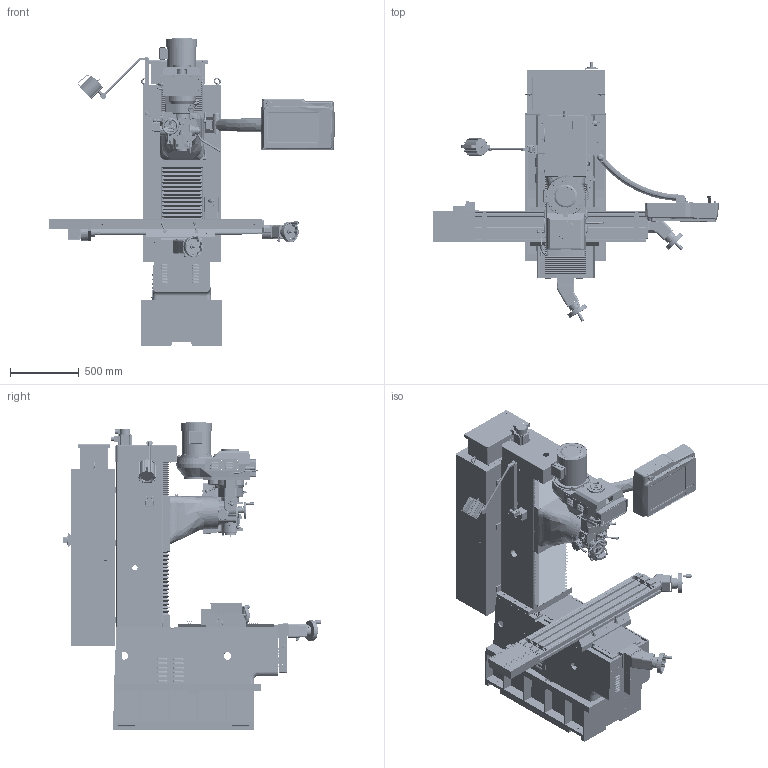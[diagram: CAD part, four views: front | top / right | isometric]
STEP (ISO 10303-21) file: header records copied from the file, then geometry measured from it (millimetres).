
FILE_DESCRIPTION( ( 'Unknown' ), '1' );
FILE_NAME( '//SERVERENG2/Data/DRAWINGS/29602.stp', 'Unknown', ( 'Unknown' ), ( 'Unknown' ), 'PSStep 14.0', 'Unknown', ' ' );
FILE_SCHEMA( ( 'AUTOMOTIVE_DESIGN { 1 0 10303 214 1 1 1 1 }' ) );
Length unit declared in the file: millimetre
Products named in the file (274): Assem1; -oa0
Assembly tree (273 placements, depth 2):
  Assem1
    -oa0
    -oa0
    -oa0
    -oa0
    -oa0
    -oa0
    -oa0
    -oa0
    -oa0
    -oa0
    -oa0
    -oa0
    -oa0
    -oa0
    -oa0
    -oa0
    -oa0
    -oa0
    -oa0
    -oa0
    -oa0
    -oa0
    -oa0
    -oa0
    -oa0
    -oa0
    -oa0
    -oa0
    -oa0
    -oa0
    -oa0
    -oa0
    -oa0
    -oa0
    -oa0
    -oa0
    -oa0
    -oa0
    -oa0
    -oa0
    -oa0
    -oa0
    -oa0
    -oa0
    -oa0
    -oa0
    -oa0
    -oa0
    -oa0
    -oa0
    -oa0
    -oa0
    -oa0
    -oa0
    -oa0
    -oa0
    -oa0
    -oa0
    -oa0
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Bounding box: 2083.18 x 1888.75 x 2240.21 mm (x, y, z)
Surface area: 23871093 mm2 (no closed solid volume)
Topology: 0 solids, 3559 shells, 3560 faces, 23074 edges, 22565 vertices
Faces by surface type: plane 2117, cylinder 873, bspline 217, cone 158, sphere 102, torus 84, revolution 5, extrusion 4
Full cylindrical faces by diameter (mm): 4.826 x1, 5 x1, 6.35 x1, 6.5 x1, 7.112 x2, 7.925 x1, 7.938 x1, 8 x3, 8.3 x1, 8.738 x2, 9.095 x7, 9.5 x6, 9.525 x5, 9.652 x2, 10 x10, 10.16 x2, 10.678 x1, 11 x4, 11.113 x3, 11.325 x3, 11.326 x8, 12 x1, 12.499 x1, 12.5 x1, 12.7 x12, 12.878 x1, 13 x2, 13.3 x2, 13.835 x4, 13.97 x1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
Entity records: 272282 total; most frequent: CARTESIAN_POINT 94142, DIRECTION 35309, ORIENTED_EDGE 22483, EDGE_CURVE 22483, VERTEX_POINT 22483, VECTOR 12581, LINE 12577, AXIS2_PLACEMENT_3D 11361
